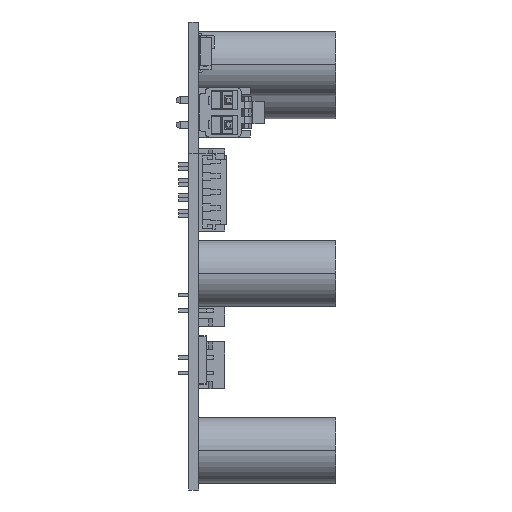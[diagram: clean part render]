
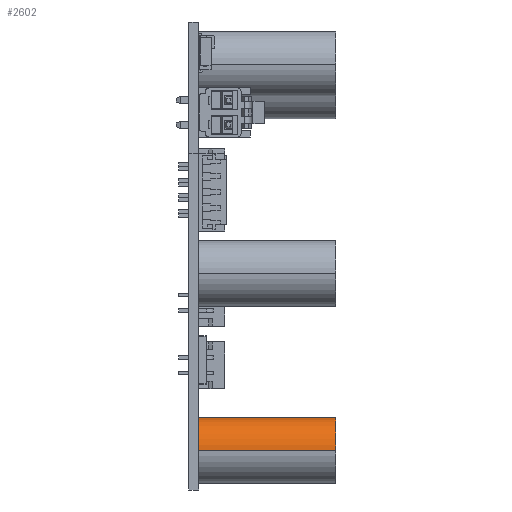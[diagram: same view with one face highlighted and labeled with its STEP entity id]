
A CAD part, left-side view. The second image highlights one B-rep face of the part: STEP entity #2602.
In plain terms, the highlighted cylindrical face has radius 5.25 mm (diameter 10.5 mm), a partial arc.
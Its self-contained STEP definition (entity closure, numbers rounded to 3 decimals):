
#2515=CARTESIAN_POINT('',(0.,0.,0.));
#2516=DIRECTION('',(0.,0.,1.));
#2517=DIRECTION('',(1.,0.,0.));
#2518=AXIS2_PLACEMENT_3D('',#2515,#2516,#2517);
#2531=DIRECTION('',(0.,0.,1.));
#2532=VECTOR('',#2531,22.);
#2533=CARTESIAN_POINT('',(5.25,0.,0.));
#2534=LINE('',#2533,#2532);
#2538=DIRECTION('',(0.,0.,1.));
#2539=VECTOR('',#2538,22.);
#2540=CARTESIAN_POINT('',(-5.25,0.,0.));
#2541=LINE('',#2540,#2539);
#2545=CARTESIAN_POINT('',(0.,0.,22.));
#2546=DIRECTION('',(0.,0.,1.));
#2547=DIRECTION('',(1.,0.,0.));
#2548=AXIS2_PLACEMENT_3D('',#2545,#2546,#2547);
#2561=CARTESIAN_POINT('',(5.25,0.,0.));
#2562=CARTESIAN_POINT('',(-5.25,0.,0.));
#2563=VERTEX_POINT('',#2561);
#2564=VERTEX_POINT('',#2562);
#2565=CARTESIAN_POINT('',(5.25,0.,22.));
#2566=CARTESIAN_POINT('',(-5.25,0.,22.));
#2567=VERTEX_POINT('',#2565);
#2568=VERTEX_POINT('',#2566);
#2588=CARTESIAN_POINT('',(0.,0.,0.));
#2589=DIRECTION('',(0.,0.,1.));
#2590=DIRECTION('',(1.,0.,0.));
#2591=AXIS2_PLACEMENT_3D('',#2588,#2589,#2590);
#2592=CYLINDRICAL_SURFACE('',#2591,5.25);
#2593=ORIENTED_EDGE('',*,*,#2574,.F.);
#2595=ORIENTED_EDGE('',*,*,#2594,.T.);
#2597=ORIENTED_EDGE('',*,*,#2596,.T.);
#2599=ORIENTED_EDGE('',*,*,#2598,.F.);
#2600=EDGE_LOOP('',(#2593,#2595,#2597,#2599));
#2601=FACE_OUTER_BOUND('',#2600,.F.);
#2519=CIRCLE('',#2518,5.25);
#2549=CIRCLE('',#2548,5.25);
#2574=EDGE_CURVE('',#2563,#2564,#2519,.T.);
#2594=EDGE_CURVE('',#2563,#2567,#2534,.T.);
#2596=EDGE_CURVE('',#2567,#2568,#2549,.T.);
#2598=EDGE_CURVE('',#2564,#2568,#2541,.T.);
#2602=ADVANCED_FACE('',(#2601),#2592,.T.);
